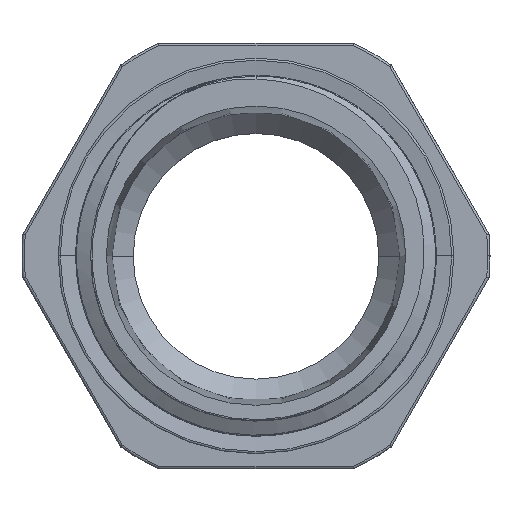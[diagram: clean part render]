
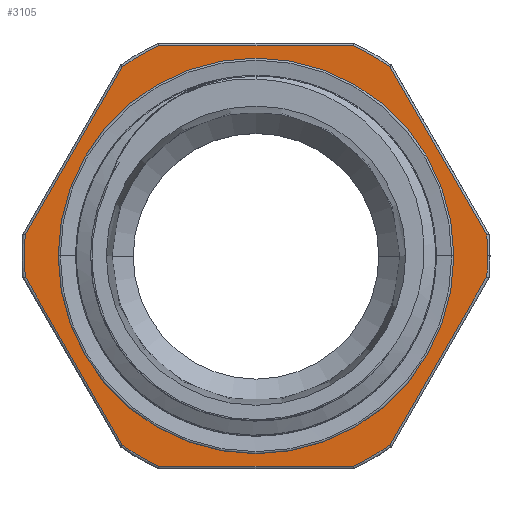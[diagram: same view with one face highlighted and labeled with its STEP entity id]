
A CAD part, top view. The second image highlights one B-rep face of the part: STEP entity #3105.
In plain terms, the highlighted planar face has unit normal (0, 0, 1).
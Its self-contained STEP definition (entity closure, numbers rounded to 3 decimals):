
#474 = DIRECTION ( 'NONE',  ( 0., 0., 1. ) ) ;
#603 = DIRECTION ( 'NONE',  ( 0., 0., 1. ) ) ;
#890 = EDGE_CURVE ( 'NONE', #19120, #17855, #6779, .T. ) ;
#941 = DIRECTION ( 'NONE',  ( -1., 0., 0. ) ) ;
#1019 = CIRCLE ( 'NONE', #21287, 17.226 ) ;
#1083 = CIRCLE ( 'NONE', #15717, 17.226 ) ;
#1199 = ORIENTED_EDGE ( 'NONE', *, *, #890, .T. ) ;
#1249 = CARTESIAN_POINT ( 'NONE',  ( -14.711, 0., 4.507 ) ) ;
#1282 = EDGE_CURVE ( 'NONE', #21888, #19120, #11095, .T. ) ;
#1344 = CARTESIAN_POINT ( 'NONE',  ( -0.001, 0., 4.507 ) ) ;
#1703 = VERTEX_POINT ( 'NONE', #2981 ) ;
#1848 = VERTEX_POINT ( 'NONE', #21550 ) ;
#2522 = VERTEX_POINT ( 'NONE', #18985 ) ;
#2632 = AXIS2_PLACEMENT_3D ( 'NONE', #22199, #16686, #7779 ) ;
#2779 = AXIS2_PLACEMENT_3D ( 'NONE', #9885, #6491, #4968 ) ;
#2831 = EDGE_CURVE ( 'NONE', #8815, #1848, #12748, .T. ) ;
#2981 = CARTESIAN_POINT ( 'NONE',  ( 9.93, 14.075, 4.507 ) ) ;
#3105 = ADVANCED_FACE ( 'NONE', ( #4324, #7862 ), #15006, .T. ) ;
#3392 = VECTOR ( 'NONE', #20158, 1000. ) ;
#3483 = ORIENTED_EDGE ( 'NONE', *, *, #6442, .T. ) ;
#3639 = CARTESIAN_POINT ( 'NONE',  ( -0.001, 0., 4.507 ) ) ;
#3737 = ORIENTED_EDGE ( 'NONE', *, *, #18361, .F. ) ;
#4324 = FACE_BOUND ( 'NONE', #10766, .T. ) ;
#4570 = DIRECTION ( 'NONE',  ( 0., 0., 1. ) ) ;
#4671 = VERTEX_POINT ( 'NONE', #10954 ) ;
#4968 = DIRECTION ( 'NONE',  ( 1., 0., 0. ) ) ;
#5277 = LINE ( 'NONE', #17722, #15157 ) ;
#5430 = DIRECTION ( 'NONE',  ( 0.5, 0.866, 0. ) ) ;
#5478 = CARTESIAN_POINT ( 'NONE',  ( -17.156, -1.564, 4.507 ) ) ;
#5533 = EDGE_CURVE ( 'NONE', #17855, #6250, #5277, .T. ) ;
#5857 = DIRECTION ( 'NONE',  ( 0., 0., 1. ) ) ;
#6090 = DIRECTION ( 'NONE',  ( 1., 0., 0. ) ) ;
#6250 = VERTEX_POINT ( 'NONE', #12090 ) ;
#6442 = EDGE_CURVE ( 'NONE', #2522, #8815, #18689, .T. ) ;
#6491 = DIRECTION ( 'NONE',  ( 0., 0., 1. ) ) ;
#6649 = VECTOR ( 'NONE', #17121, 1000. ) ;
#6756 = DIRECTION ( 'NONE',  ( 0., 0., 1. ) ) ;
#6779 = CIRCLE ( 'NONE', #13868, 17.226 ) ;
#6811 = CARTESIAN_POINT ( 'NONE',  ( 17.154, 1.563, 4.507 ) ) ;
#6871 = EDGE_CURVE ( 'NONE', #21366, #4671, #7206, .T. ) ;
#6925 = EDGE_CURVE ( 'NONE', #16671, #21393, #12508, .T. ) ;
#7069 = DIRECTION ( 'NONE',  ( 0., 0., 1. ) ) ;
#7174 = CIRCLE ( 'NONE', #9757, 17.226 ) ;
#7206 = LINE ( 'NONE', #21521, #14754 ) ;
#7337 = EDGE_CURVE ( 'NONE', #12189, #21888, #20047, .T. ) ;
#7779 = DIRECTION ( 'NONE',  ( 1., 0., 0. ) ) ;
#7862 = FACE_OUTER_BOUND ( 'NONE', #9796, .T. ) ;
#7863 = CARTESIAN_POINT ( 'NONE',  ( -0.001, 0., 4.507 ) ) ;
#8227 = ORIENTED_EDGE ( 'NONE', *, *, #5533, .T. ) ;
#8299 = CARTESIAN_POINT ( 'NONE',  ( -0.001, 0., 4.507 ) ) ;
#8815 = VERTEX_POINT ( 'NONE', #19993 ) ;
#9044 = CIRCLE ( 'NONE', #12034, 14.71 ) ;
#9223 = ORIENTED_EDGE ( 'NONE', *, *, #13437, .F. ) ;
#9281 = DIRECTION ( 'NONE',  ( 1., 0., 0. ) ) ;
#9757 = AXIS2_PLACEMENT_3D ( 'NONE', #7863, #4570, #21116 ) ;
#9796 = EDGE_LOOP ( 'NONE', ( #23187, #22678, #12064, #23094, #21418, #3483, #19881, #15033, #12249, #15896, #1199, #8227, #13850 ) ) ;
#9885 = CARTESIAN_POINT ( 'NONE',  ( -0.001, 0., 4.507 ) ) ;
#10766 = EDGE_LOOP ( 'NONE', ( #3737, #9223 ) ) ;
#10874 = DIRECTION ( 'NONE',  ( 1., 0., 0. ) ) ;
#10954 = CARTESIAN_POINT ( 'NONE',  ( 17.154, -1.564, 4.507 ) ) ;
#11095 = LINE ( 'NONE', #14277, #3392 ) ;
#11241 = CARTESIAN_POINT ( 'NONE',  ( 9.93, -14.075, 4.507 ) ) ;
#11444 = AXIS2_PLACEMENT_3D ( 'NONE', #16441, #12660, #20200 ) ;
#11556 = DIRECTION ( 'NONE',  ( 0., 0., 1. ) ) ;
#12034 = AXIS2_PLACEMENT_3D ( 'NONE', #14777, #5857, #12993 ) ;
#12064 = ORIENTED_EDGE ( 'NONE', *, *, #6925, .T. ) ;
#12090 = CARTESIAN_POINT ( 'NONE',  ( 7.222, -15.639, 4.507 ) ) ;
#12189 = VERTEX_POINT ( 'NONE', #21012 ) ;
#12249 = ORIENTED_EDGE ( 'NONE', *, *, #7337, .T. ) ;
#12508 = CIRCLE ( 'NONE', #12895, 17.226 ) ;
#12605 = CARTESIAN_POINT ( 'NONE',  ( -7.225, -15.639, 4.507 ) ) ;
#12660 = DIRECTION ( 'NONE',  ( 0., 0., 1. ) ) ;
#12748 = CIRCLE ( 'NONE', #2632, 17.226 ) ;
#12895 = AXIS2_PLACEMENT_3D ( 'NONE', #19988, #603, #9281 ) ;
#12993 = DIRECTION ( 'NONE',  ( 1., 0., 0. ) ) ;
#13437 = EDGE_CURVE ( 'NONE', #23121, #19708, #9044, .T. ) ;
#13460 = EDGE_CURVE ( 'NONE', #21393, #1703, #15466, .T. ) ;
#13575 = CARTESIAN_POINT ( 'NONE',  ( 9.911, 14.108, 4.507 ) ) ;
#13850 = ORIENTED_EDGE ( 'NONE', *, *, #15016, .T. ) ;
#13868 = AXIS2_PLACEMENT_3D ( 'NONE', #1344, #6756, #17314 ) ;
#14200 = DIRECTION ( 'NONE',  ( 1., 0., 0. ) ) ;
#14277 = CARTESIAN_POINT ( 'NONE',  ( -9.914, -14.108, 4.507 ) ) ;
#14619 = CARTESIAN_POINT ( 'NONE',  ( 14.709, 0., 4.507 ) ) ;
#14754 = VECTOR ( 'NONE', #5430, 1000. ) ;
#14777 = CARTESIAN_POINT ( 'NONE',  ( -0.001, 0., 4.507 ) ) ;
#14999 = VECTOR ( 'NONE', #15236, 1000. ) ;
#15006 = PLANE ( 'NONE',  #17674 ) ;
#15016 = EDGE_CURVE ( 'NONE', #6250, #21366, #7174, .T. ) ;
#15033 = ORIENTED_EDGE ( 'NONE', *, *, #16321, .T. ) ;
#15157 = VECTOR ( 'NONE', #10874, 1000. ) ;
#15236 = DIRECTION ( 'NONE',  ( -0.5, 0.866, 0. ) ) ;
#15242 = CARTESIAN_POINT ( 'NONE',  ( -0.001, 0., 4.507 ) ) ;
#15466 = LINE ( 'NONE', #13575, #14999 ) ;
#15592 = LINE ( 'NONE', #22749, #6649 ) ;
#15717 = AXIS2_PLACEMENT_3D ( 'NONE', #3639, #7069, #14200 ) ;
#15896 = ORIENTED_EDGE ( 'NONE', *, *, #1282, .T. ) ;
#15897 = EDGE_CURVE ( 'NONE', #4671, #16671, #1083, .T. ) ;
#16321 = EDGE_CURVE ( 'NONE', #1848, #12189, #15592, .T. ) ;
#16441 = CARTESIAN_POINT ( 'NONE',  ( -0.001, 0., 4.507 ) ) ;
#16640 = CARTESIAN_POINT ( 'NONE',  ( 17.225, 0., 4.507 ) ) ;
#16671 = VERTEX_POINT ( 'NONE', #16640 ) ;
#16686 = DIRECTION ( 'NONE',  ( 0., 0., 1. ) ) ;
#17018 = CARTESIAN_POINT ( 'NONE',  ( -7.263, 15.638, 4.507 ) ) ;
#17121 = DIRECTION ( 'NONE',  ( -0.5, -0.866, 0. ) ) ;
#17314 = DIRECTION ( 'NONE',  ( 1., 0., 0. ) ) ;
#17553 = CARTESIAN_POINT ( 'NONE',  ( -9.933, -14.075, 4.507 ) ) ;
#17674 = AXIS2_PLACEMENT_3D ( 'NONE', #15242, #474, #6090 ) ;
#17722 = CARTESIAN_POINT ( 'NONE',  ( 7.26, -15.639, 4.507 ) ) ;
#17855 = VERTEX_POINT ( 'NONE', #12605 ) ;
#18239 = CIRCLE ( 'NONE', #11444, 14.71 ) ;
#18361 = EDGE_CURVE ( 'NONE', #19708, #23121, #18239, .T. ) ;
#18689 = LINE ( 'NONE', #17018, #20752 ) ;
#18985 = CARTESIAN_POINT ( 'NONE',  ( 7.222, 15.638, 4.507 ) ) ;
#19120 = VERTEX_POINT ( 'NONE', #17553 ) ;
#19645 = EDGE_CURVE ( 'NONE', #1703, #2522, #1019, .T. ) ;
#19708 = VERTEX_POINT ( 'NONE', #1249 ) ;
#19881 = ORIENTED_EDGE ( 'NONE', *, *, #2831, .T. ) ;
#19988 = CARTESIAN_POINT ( 'NONE',  ( -0.001, 0., 4.507 ) ) ;
#19993 = CARTESIAN_POINT ( 'NONE',  ( -7.225, 15.638, 4.507 ) ) ;
#20047 = CIRCLE ( 'NONE', #2779, 17.226 ) ;
#20158 = DIRECTION ( 'NONE',  ( 0.5, -0.866, 0. ) ) ;
#20200 = DIRECTION ( 'NONE',  ( 1., 0., 0. ) ) ;
#20752 = VECTOR ( 'NONE', #941, 1000. ) ;
#21012 = CARTESIAN_POINT ( 'NONE',  ( -17.156, 1.563, 4.507 ) ) ;
#21116 = DIRECTION ( 'NONE',  ( 1., 0., 0. ) ) ;
#21287 = AXIS2_PLACEMENT_3D ( 'NONE', #8299, #11556, #22492 ) ;
#21366 = VERTEX_POINT ( 'NONE', #11241 ) ;
#21393 = VERTEX_POINT ( 'NONE', #6811 ) ;
#21418 = ORIENTED_EDGE ( 'NONE', *, *, #19645, .T. ) ;
#21521 = CARTESIAN_POINT ( 'NONE',  ( 17.173, -1.531, 4.507 ) ) ;
#21550 = CARTESIAN_POINT ( 'NONE',  ( -9.933, 14.075, 4.507 ) ) ;
#21888 = VERTEX_POINT ( 'NONE', #5478 ) ;
#22199 = CARTESIAN_POINT ( 'NONE',  ( -0.001, 0., 4.507 ) ) ;
#22492 = DIRECTION ( 'NONE',  ( 1., 0., 0. ) ) ;
#22678 = ORIENTED_EDGE ( 'NONE', *, *, #15897, .T. ) ;
#22749 = CARTESIAN_POINT ( 'NONE',  ( -17.175, 1.53, 4.507 ) ) ;
#23094 = ORIENTED_EDGE ( 'NONE', *, *, #13460, .T. ) ;
#23121 = VERTEX_POINT ( 'NONE', #14619 ) ;
#23187 = ORIENTED_EDGE ( 'NONE', *, *, #6871, .T. ) ;
